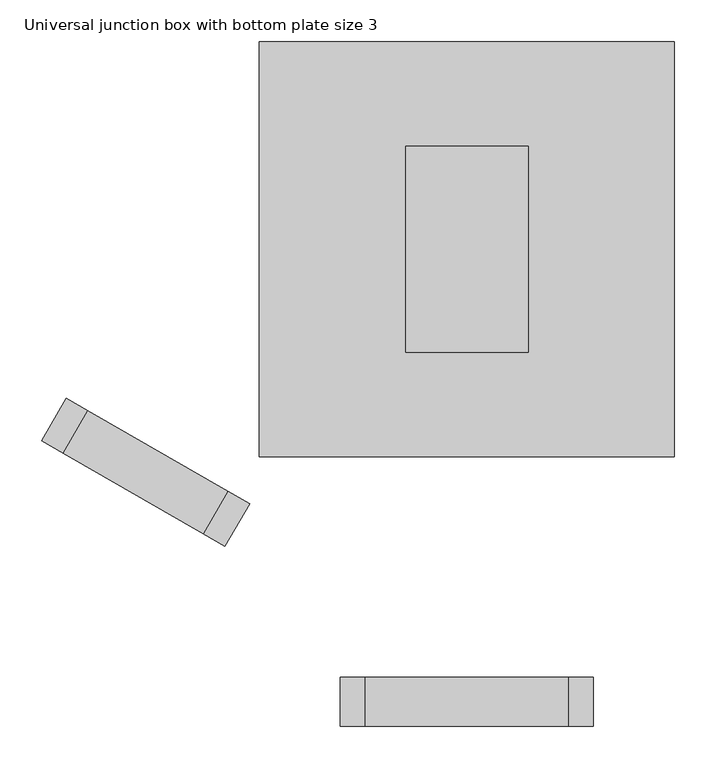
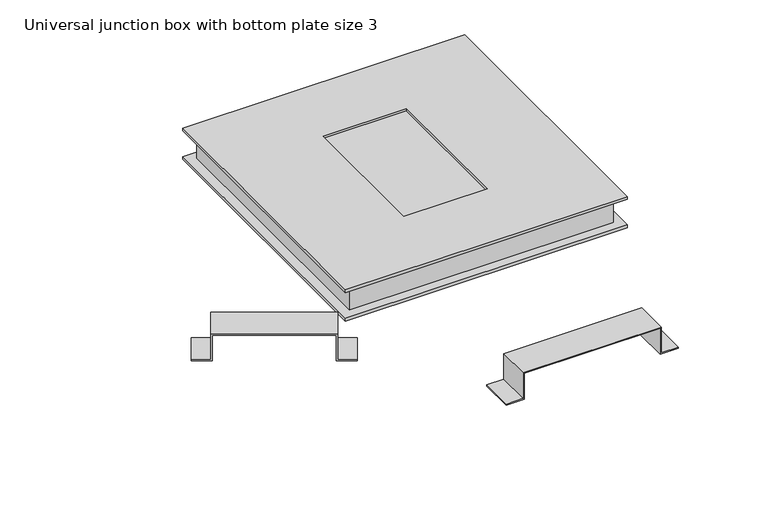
"""IFC4 building model written with IfcOpenShell, lengths in millimetres: cable carrier fitting geometry, Electrical-Installations_Hager_Universal-Junction-Box-With-Bottom-Plate-Size-3-Angled : Universal junction box with bottom plate size 3."""

from ifc_helpers import new_model, si_unit, frame, origin, place, context, project, spatial, polyline, outline, extrude, faceted_brep, source, transform, mapped, element, save


def universal_junction_box_with_bottom_plate_size_3_48d80f4d(model_context):
    return source(origin(), model_context, "Body", "SolidModel", [
        extrude(outline(polyline([(0.0, 0.0), (0.0, -2.0), (-30.0, -2.0), (-30.0, -50.0), (-224.0, -50.0), (-224.0, -2.0), (-254.0, -2.0), (-254.0, 0.0), (-222.0000001, 0.0), (-222.0000001, -48.0), (-32.0, -48.0), (-32.0, 0.0), (0.0, 0.0)])), frame((-290.1333765, -356.6495992, -24.0), z_axis=(0.500000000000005, 0.8660254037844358, 0.0), x_axis=(0.8660254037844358, -0.500000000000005, 0.0)), (0.0, 0.0, 1.0), 59.0),
        extrude(outline(polyline([(-24.0, -152.0), (-24.0, -120.0), (24.0, -120.0), (24.0, 120.0), (-24.0, 120.0), (-24.0, 152.0), (-22.0, 152.0), (-22.0, 122.0), (26.0, 122.0), (26.0, -122.0), (-22.0, -122.0), (-22.0, -152.0), (-24.0, -152.0)])), frame((0.0, -572.5, 0.0), z_axis=(0.0, 1.0, 0.0), x_axis=(0.0, 0.0, 1.0)), (0.0, 0.0, 1.0), 59.0),
        faceted_brep([(-249.0, -249.0, 29.0), (249.0, -249.0, 29.0), (249.0, 249.0, 29.0), (-249.0, 249.0, 29.0), (-73.5, 123.5, 29.0), (73.5, 123.5, 29.0), (73.5, -123.5, 29.0), (-73.5, -123.5, 29.0), (-249.0, -249.0, 24.0), (-249.0, 249.0, 24.0), (249.0, 249.0, 24.0), (249.0, -249.0, 24.0), (227.0, 227.0, 24.0), (-227.0, 227.0, 24.0), (-227.0, -227.0, 24.0), (227.0, -227.0, 24.0), (-73.5, 123.5, 24.7820613), (73.5, 123.5, 24.7820613), (73.5, -123.5, 24.7820613), (-73.5, -123.5, 24.7820613), (227.0, 227.0, 24.7820613), (227.0, -227.0, 24.7820613), (-227.0, -227.0, 24.7820613), (-227.0, 227.0, 24.7820613)], [[[0, 1, 2, 3], [4, 5, 6, 7]], [[8, 9, 10, 11], [12, 13, 14, 15]], [[1, 0, 8, 11]], [[2, 1, 11, 10]], [[3, 2, 10, 9]], [[0, 3, 9, 8]], [[5, 4, 16, 17]], [[6, 5, 17, 18]], [[7, 6, 18, 19]], [[4, 7, 19, 16]], [[20, 21, 22, 23], [17, 16, 19, 18]], [[20, 23, 13, 12]], [[23, 22, 14, 13]], [[22, 21, 15, 14]], [[21, 20, 12, 15]]]),
        extrude(outline(polyline([(249.0, 249.0), (249.0, -249.0), (-249.0, -249.0), (-249.0, 249.0), (249.0, 249.0)])), frame((0.0, 0.0, -29.0), z_axis=(0.0, 0.0, 1.0), x_axis=(1.0, 0.0, 0.0)), (0.0, 0.0, 1.0), 5.0),
        faceted_brep([(-233.0, 233.0, 24.0), (-233.0, -233.0, 24.0), (233.0, -233.0, 24.0), (233.0, 233.0, 24.0), (-227.0, 227.0, 24.0), (227.0, 227.0, 24.0), (227.0, -227.0, 24.0), (-227.0, -227.0, 24.0), (-233.0, 233.0, -24.0), (233.0, 233.0, -24.0), (233.0, -233.0, -24.0), (-233.0, -233.0, -24.0), (227.0, 227.0, -16.1362798), (-227.0, 227.0, -16.1362798), (-227.0, -227.0, -16.1362798), (227.0, -227.0, -16.1362798)], [[[0, 1, 2, 3], [4, 5, 6, 7]], [[8, 9, 10, 11]], [[1, 0, 8, 11]], [[2, 1, 11, 10]], [[3, 2, 10, 9]], [[0, 3, 9, 8]], [[12, 13, 14, 15]], [[13, 12, 5, 4]], [[14, 13, 4, 7]], [[15, 14, 7, 6]], [[12, 15, 6, 5]]]),
    ])


if __name__ == "__main__":
    model = new_model("IFC4")
    model_context = context("Model", 3, world=origin())
    ifc_project = project(units=[si_unit("LENGTHUNIT", "METRE", prefix="MILLI")], contexts=[model_context])
    site = spatial("IfcSite", under=ifc_project)
    building = spatial("IfcBuilding", under=site)
    placement = place(None, origin())
    universal_junction_box_with_bottom_plate_size_3_shape = universal_junction_box_with_bottom_plate_size_3_48d80f4d(model_context)
    element("IfcCableCarrierFitting", 1, ObjectType="Electrical-Installations_Hager_Universal-Junction-Box-With-Bottom-Plate-Size-3-Angled : Universal junction box with bottom plate size 3", at=placement, inside=building, context=model_context, shape_type="MappedRepresentation", body=[
        mapped(universal_junction_box_with_bottom_plate_size_3_shape, transform((0.0, 0.0, 0.0), x_axis=(1.0, 0.0, 0.0), y_axis=(0.0, 1.0, 0.0), z_axis=(0.0, 0.0, 1.0))),
    ])
    save(model, "model.ifc")
